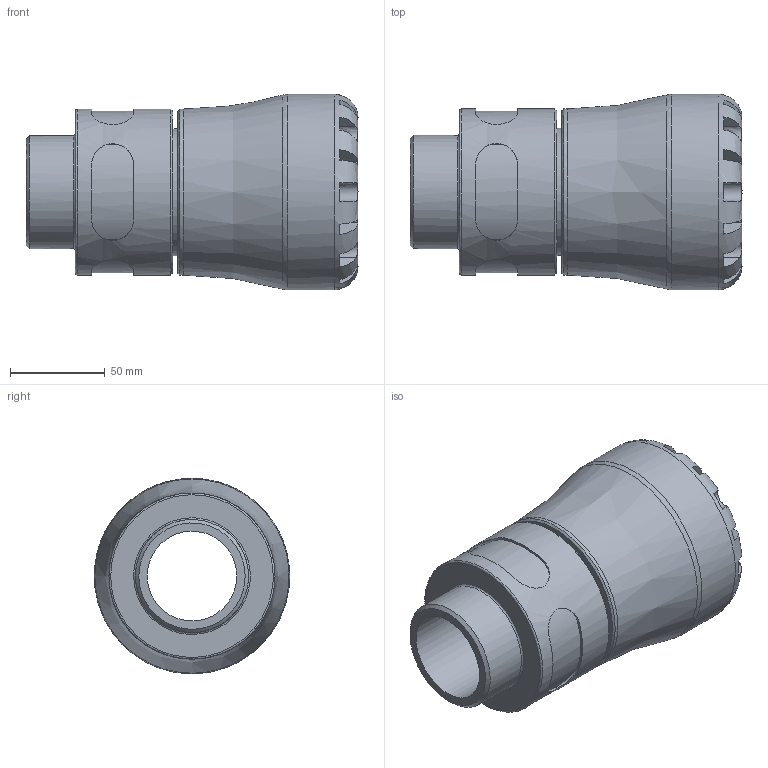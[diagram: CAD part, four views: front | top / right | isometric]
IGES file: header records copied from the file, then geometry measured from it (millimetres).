
Global section: file name: 10N200063020_10N2G0063020; native system: Autodesk Inventor 2019; preprocessor: unknown; author: KIM; date: 20240312.132012; units: millimetre
Bounding box: 175 x 103 x 102.92 mm (x, y, z)
Volume: 635224.5 mm3; surface area: 95939.7 mm2
Topology: 1 solids, 1 shells, 114 faces, 303 edges, 198 vertices
Faces by surface type: bspline 114
